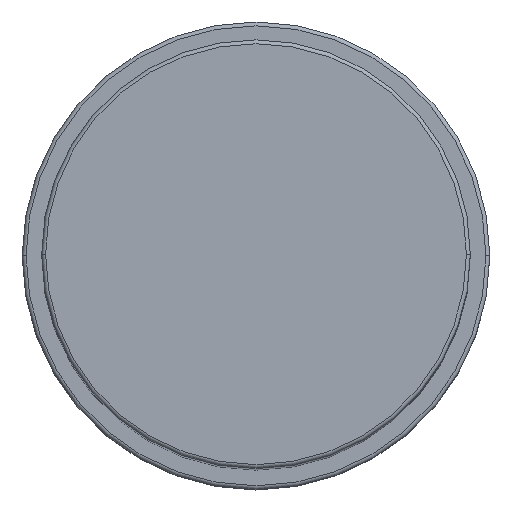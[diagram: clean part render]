
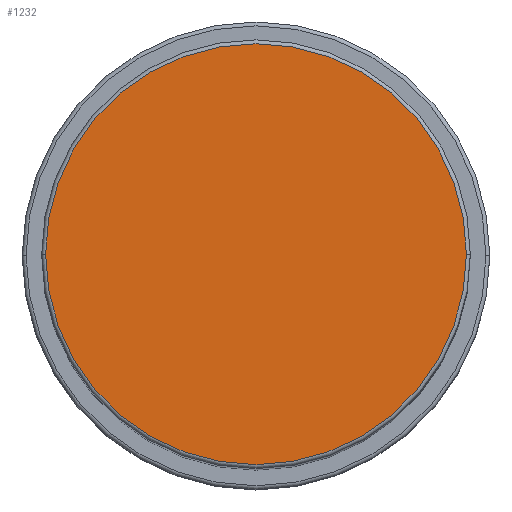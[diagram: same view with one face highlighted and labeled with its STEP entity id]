
A CAD part, top view. The second image highlights one B-rep face of the part: STEP entity #1232.
In plain terms, the highlighted planar face has unit normal (0, 0, 1).
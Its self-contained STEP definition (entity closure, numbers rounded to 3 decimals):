
#3 = EDGE_LOOP ( 'NONE', ( #784, #384 ) ) ;
#11 = FACE_OUTER_BOUND ( 'NONE', #3, .T. ) ;
#47 = CARTESIAN_POINT ( 'NONE',  ( 0., 0., 133. ) ) ;
#87 = AXIS2_PLACEMENT_3D ( 'NONE', #47, #459, #298 ) ;
#112 = CIRCLE ( 'NONE', #133, 27. ) ;
#133 = AXIS2_PLACEMENT_3D ( 'NONE', #342, #1350, #1222 ) ;
#199 = CARTESIAN_POINT ( 'NONE',  ( -27., 0., 133. ) ) ;
#267 = VERTEX_POINT ( 'NONE', #199 ) ;
#298 = DIRECTION ( 'NONE',  ( 1., 0., 0. ) ) ;
#342 = CARTESIAN_POINT ( 'NONE',  ( 0., 0., 133. ) ) ;
#384 = ORIENTED_EDGE ( 'NONE', *, *, #619, .T. ) ;
#409 = CIRCLE ( 'NONE', #758, 27. ) ;
#459 = DIRECTION ( 'NONE',  ( 0., 0., 1. ) ) ;
#619 = EDGE_CURVE ( 'NONE', #267, #1153, #409, .T. ) ;
#758 = AXIS2_PLACEMENT_3D ( 'NONE', #799, #1423, #1067 ) ;
#784 = ORIENTED_EDGE ( 'NONE', *, *, #811, .T. ) ;
#799 = CARTESIAN_POINT ( 'NONE',  ( 0., 0., 133. ) ) ;
#804 = CARTESIAN_POINT ( 'NONE',  ( 27., 0., 133. ) ) ;
#811 = EDGE_CURVE ( 'NONE', #1153, #267, #112, .T. ) ;
#1067 = DIRECTION ( 'NONE',  ( 1., 0., 0. ) ) ;
#1153 = VERTEX_POINT ( 'NONE', #804 ) ;
#1222 = DIRECTION ( 'NONE',  ( 1., 0., 0. ) ) ;
#1232 = ADVANCED_FACE ( 'NONE', ( #11 ), #1341, .T. ) ;
#1341 = PLANE ( 'NONE',  #87 ) ;
#1350 = DIRECTION ( 'NONE',  ( 0., 0., 1. ) ) ;
#1423 = DIRECTION ( 'NONE',  ( 0., 0., 1. ) ) ;
